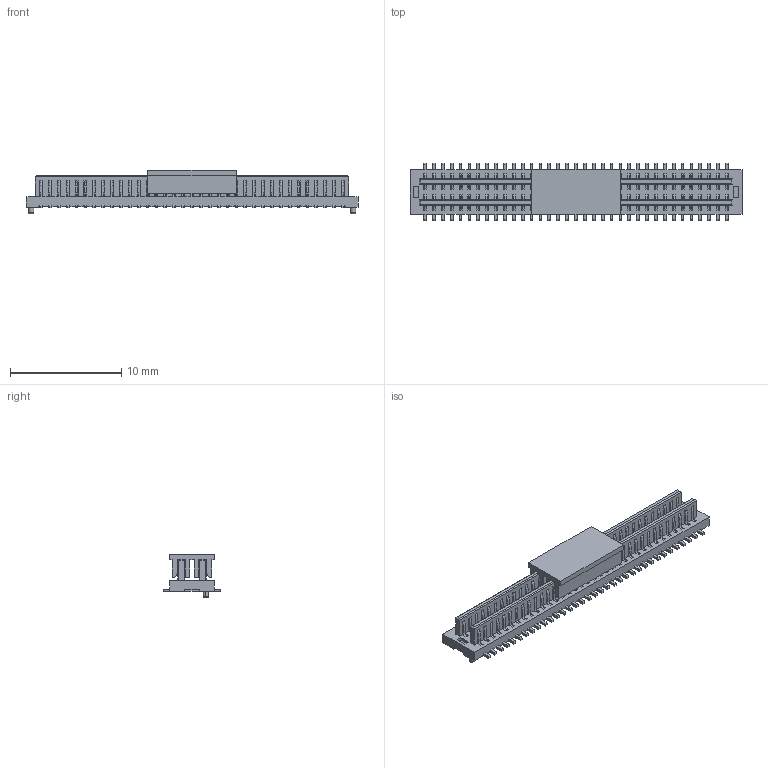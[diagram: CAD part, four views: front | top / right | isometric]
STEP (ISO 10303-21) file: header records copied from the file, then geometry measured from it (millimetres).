
FILE_DESCRIPTION (( 'STEP AP203' ), '1' );
FILE_NAME ('HC-PBB08-2-70-M-H1.0-G1-R-P-04(BTB0.8 双槽 公座 立贴 带柱 编带+盖)-HCTL.STEP', '2025-12-10T08:09:54', ( '' ), ( '' ), 'SwSTEP 2.0', 'SolidWorks 2025', '' );
FILE_SCHEMA (( 'CONFIG_CONTROL_DESIGN' ));
Products named in the file (1): HC-PBB08-2-70-M-H1.0-G1-R-P-04(BTB0.8 双槽 公座 立贴 带柱 编带+盖)-HCTL
Bounding box: 29.9 x 5.2 x 3.95 mm (x, y, z)
Volume: 201.2 mm3; surface area: 1360.9 mm2
Topology: 2 solids, 2 shells, 4070 faces, 13078 edges, 8528 vertices
Faces by surface type: plane 2662, cylinder 1404, torus 4
Entity records: 144625 total; most frequent: CARTESIAN_POINT 26645, ORIENTED_EDGE 26156, DIRECTION 23756, EDGE_CURVE 13078, VECTOR 9982, LINE 9982, VERTEX_POINT 8528, AXIS2_PLACEMENT_3D 6887
